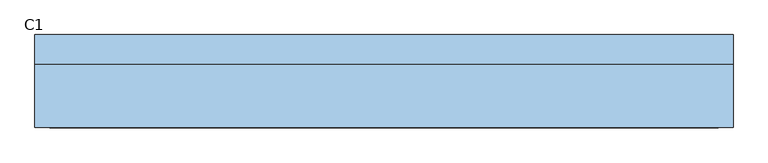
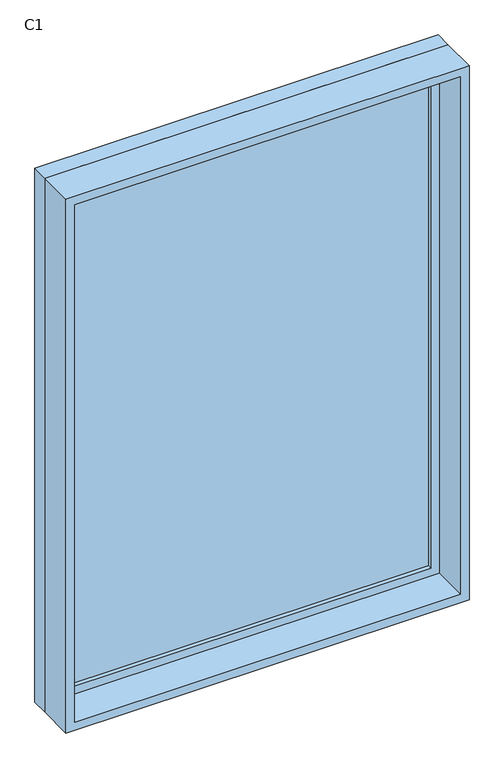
"""IFC4 building model written with IfcOpenShell, lengths in millimetres: window geometry, 固定 : C1."""

from ifc_helpers import new_model, si_unit, frame, origin, place, context, project, spatial, polyline, outline, extrude, source, transform, mapped, element, save


def c1_fb661159(model_context):
    return source(origin(), model_context, "Body", "SweptSolid", [
        extrude(outline(polyline([(-687.0, 78.0), (687.0, 78.0), (687.0, 66.0), (-687.0, 66.0), (-687.0, 78.0)])), frame((0.0, 0.0, 963.0), z_axis=(0.0, 0.0, 1.0), x_axis=(1.0, 0.0, 0.0)), (0.0, 0.0, 1.0), 1974.0),
        extrude(outline(polyline([(2981.0, -731.0), (919.0, -731.0), (919.0, 731.0), (2981.0, 731.0), (2981.0, -731.0)]), holes=[polyline([(2937.0, -687.0), (2937.0, 687.0), (963.0, 687.0), (963.0, -687.0), (2937.0, -687.0)])]), frame((0.0, 50.0, 0.0), z_axis=(0.0, 1.0, 0.0), x_axis=(0.0, 0.0, 1.0)), (0.0, 0.0, 1.0), 44.0),
        extrude(outline(polyline([(3000.0, -750.0), (900.0, -750.0), (900.0, 750.0), (3000.0, 750.0), (3000.0, -750.0)]), holes=[polyline([(2981.0, -731.0), (2981.0, 731.0), (919.0, 731.0), (919.0, -731.0), (2981.0, -731.0)])]), frame((0.0, 50.0, 0.0), z_axis=(0.0, 1.0, 0.0), x_axis=(0.0, 0.0, 1.0)), (0.0, 0.0, 1.0), 63.0),
        extrude(outline(polyline([(3000.0, -750.0), (900.0, -750.0), (900.0, 750.0), (3000.0, 750.0), (3000.0, -750.0)]), holes=[polyline([(2968.0, -718.0), (2968.0, 718.0), (932.0, 718.0), (932.0, -718.0), (2968.0, -718.0)])]), frame((0.0, -87.0, 0.0), z_axis=(0.0, 1.0, 0.0), x_axis=(0.0, 0.0, 1.0)), (0.0, 0.0, 1.0), 137.0),
    ])


if __name__ == "__main__":
    model = new_model("IFC4")
    model_context = context("Model", 3, world=origin())
    ifc_project = project(units=[si_unit("LENGTHUNIT", "METRE", prefix="MILLI")], contexts=[model_context])
    site = spatial("IfcSite", under=ifc_project)
    building = spatial("IfcBuilding", under=site)
    placement = place(None, origin())
    c1_shape = c1_fb661159(model_context)
    element("IfcWindow", 1, ObjectType="固定 : C1", at=placement, inside=building, context=model_context, shape_type="MappedRepresentation", body=[
        mapped(c1_shape, transform((0.0, 0.0, 0.0), x_axis=(1.0, 0.0, 0.0), y_axis=(0.0, 1.0, 0.0), z_axis=(0.0, 0.0, 1.0))),
    ])
    save(model, "model.ifc")
